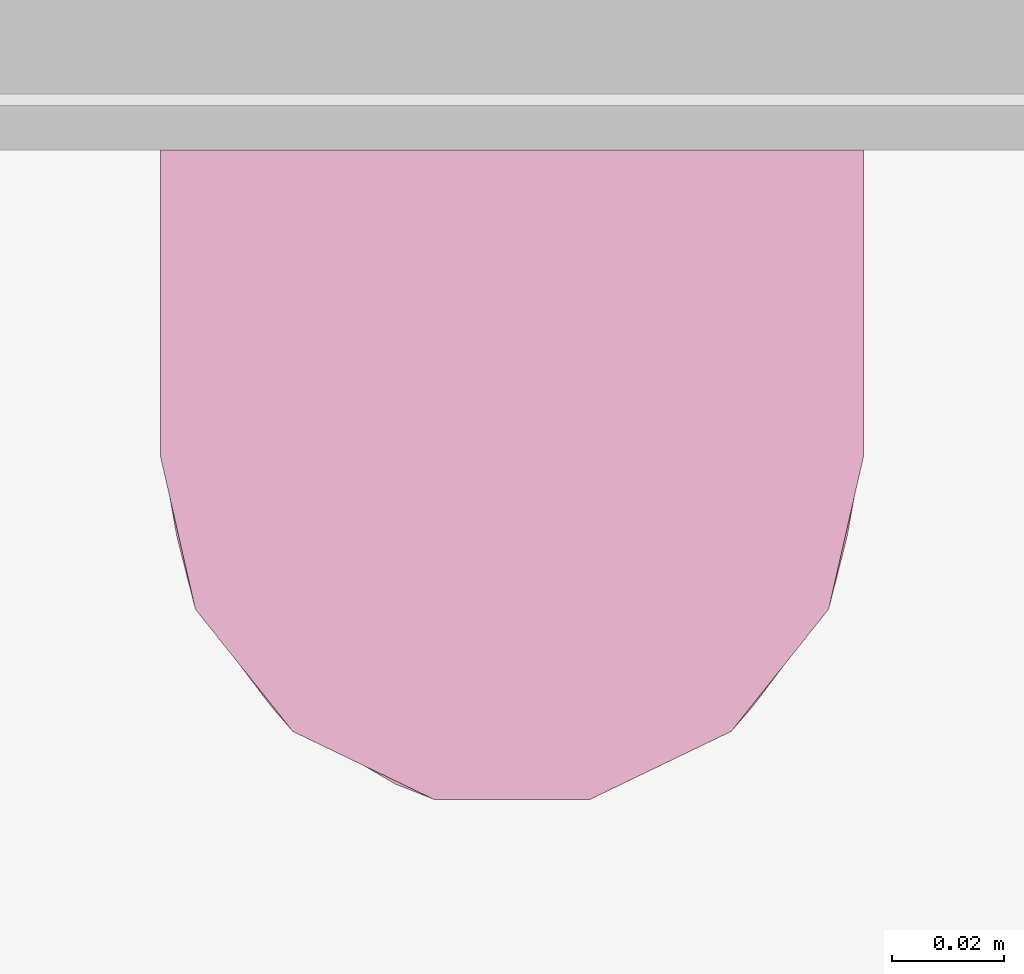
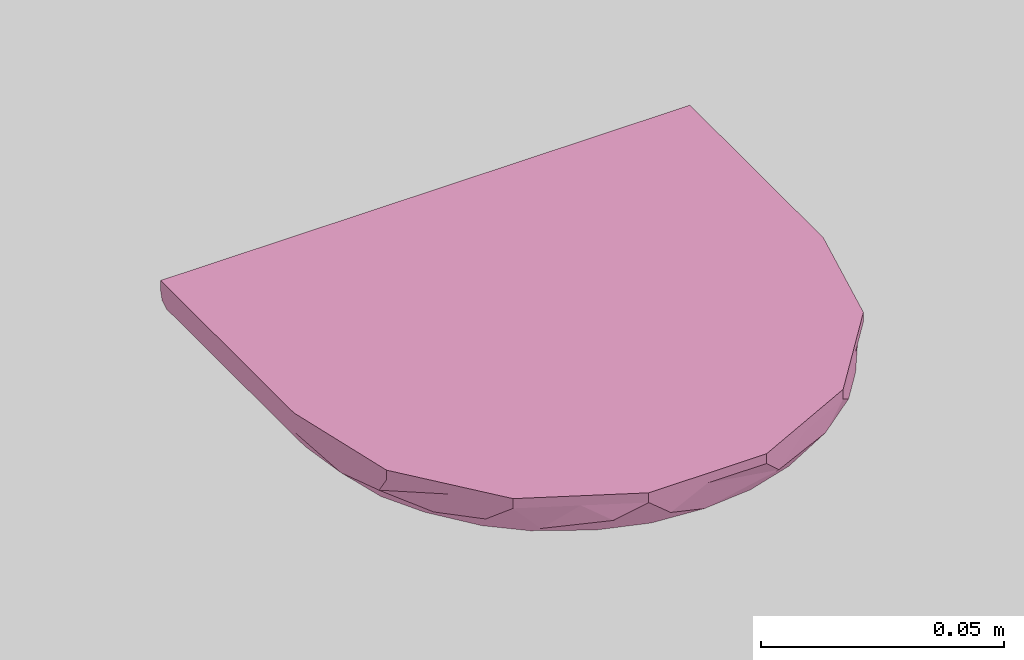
# One storey, part 46 of 48: 1 furniture element.
"""IFC4 building model written with IfcOpenShell, lengths in metres."""

from ifc_helpers import new_model, entity, si_unit, converted_unit, derived_unit, direction, frame, origin, place, context, subcontext, project, spatial, polygons, source, transform, mapped, material, type_object, type_shapes, element, save


model = new_model("IFC4")

# Units and contexts
model_context = context("Model", 3, precision=1e-05, world=origin(), true_north=direction((6.123031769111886e-17, 1.0)))
body_context = subcontext(model_context, "Body", "Model", "MODEL_VIEW")
ifc_project = project(units=[si_unit("LENGTHUNIT", "METRE"), si_unit("AREAUNIT", "SQUARE_METRE"), si_unit("VOLUMEUNIT", "CUBIC_METRE"), converted_unit("PLANEANGLEUNIT", "DEGREE", entity("IfcRatioMeasure", 0.017453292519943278), si_unit("PLANEANGLEUNIT", "RADIAN"), dimensions=[0, 0, 0, 0, 0, 0, 0]), si_unit("MASSUNIT", "GRAM", prefix="KILO"), derived_unit("MASSDENSITYUNIT", [(si_unit("MASSUNIT", "GRAM", prefix="KILO"), 1), (si_unit("LENGTHUNIT", "METRE"), -3)]), derived_unit("IONCONCENTRATIONUNIT", [(si_unit("MASSUNIT", "GRAM", prefix="KILO"), 1), (si_unit("LENGTHUNIT", "METRE"), -3)]), derived_unit("MOMENTOFINERTIAUNIT", [(si_unit("LENGTHUNIT", "METRE"), 4)]), si_unit("TIMEUNIT", "SECOND"), si_unit("FREQUENCYUNIT", "HERTZ"), si_unit("THERMODYNAMICTEMPERATUREUNIT", "DEGREE_CELSIUS"), derived_unit("THERMALTRANSMITTANCEUNIT", [(si_unit("MASSUNIT", "GRAM", prefix="KILO"), 1), (si_unit("THERMODYNAMICTEMPERATUREUNIT", "KELVIN"), -1), (si_unit("TIMEUNIT", "SECOND"), -3)]), derived_unit("THERMALCONDUCTANCEUNIT", [(si_unit("MASSUNIT", "GRAM", prefix="KILO"), 1), (si_unit("THERMODYNAMICTEMPERATUREUNIT", "KELVIN"), -1), (si_unit("TIMEUNIT", "SECOND"), -3), (si_unit("LENGTHUNIT", "METRE"), 1)]), derived_unit("VOLUMETRICFLOWRATEUNIT", [(si_unit("LENGTHUNIT", "METRE"), 3), (si_unit("TIMEUNIT", "SECOND"), -1)]), derived_unit("MASSFLOWRATEUNIT", [(si_unit("MASSUNIT", "GRAM", prefix="KILO"), 1), (si_unit("TIMEUNIT", "SECOND"), -1)]), derived_unit("ROTATIONALFREQUENCYUNIT", [(si_unit("TIMEUNIT", "SECOND"), -1)]), si_unit("ELECTRICCURRENTUNIT", "AMPERE"), si_unit("ELECTRICVOLTAGEUNIT", "VOLT"), si_unit("POWERUNIT", "WATT"), si_unit("FORCEUNIT", "NEWTON", prefix="KILO"), si_unit("ILLUMINANCEUNIT", "LUX"), si_unit("LUMINOUSFLUXUNIT", "LUMEN"), si_unit("LUMINOUSINTENSITYUNIT", "CANDELA"), derived_unit("USERDEFINED", [(si_unit("MASSUNIT", "GRAM", prefix="KILO"), -1), (si_unit("LENGTHUNIT", "METRE"), -2), (si_unit("TIMEUNIT", "SECOND"), 3), (si_unit("LUMINOUSFLUXUNIT", "LUMEN"), 1)]), derived_unit("USERDEFINED", [(si_unit("MASSUNIT", "GRAM", prefix="KILO"), 1), (si_unit("TIMEUNIT", "SECOND"), -3), (si_unit("LENGTHUNIT", "METRE"), 3), (si_unit("ELECTRICCURRENTUNIT", "AMPERE"), -2)]), derived_unit("SOUNDPOWERUNIT", [(si_unit("MASSUNIT", "GRAM", prefix="KILO"), 1), (si_unit("TIMEUNIT", "SECOND"), -3), (si_unit("LENGTHUNIT", "METRE"), 2)]), derived_unit("SOUNDPRESSUREUNIT", [(si_unit("MASSUNIT", "GRAM", prefix="KILO"), 1), (si_unit("LENGTHUNIT", "METRE"), -1), (si_unit("TIMEUNIT", "SECOND"), -2)]), derived_unit("LINEARVELOCITYUNIT", [(si_unit("LENGTHUNIT", "METRE"), 1), (si_unit("TIMEUNIT", "SECOND"), -1)]), si_unit("PRESSUREUNIT", "PASCAL"), derived_unit("USERDEFINED", [(si_unit("MASSUNIT", "GRAM", prefix="KILO"), 1), (si_unit("LENGTHUNIT", "METRE"), -2), (si_unit("TIMEUNIT", "SECOND"), -2)]), derived_unit("LINEARFORCEUNIT", [(si_unit("MASSUNIT", "GRAM", prefix="KILO"), 1), (si_unit("TIMEUNIT", "SECOND"), -2)]), derived_unit("PLANARFORCEUNIT", [(si_unit("MASSUNIT", "GRAM", prefix="KILO"), 1), (si_unit("LENGTHUNIT", "METRE"), -1), (si_unit("TIMEUNIT", "SECOND"), -2)]), derived_unit("SPECIFICHEATCAPACITYUNIT", [(si_unit("THERMODYNAMICTEMPERATUREUNIT", "KELVIN"), -1), (si_unit("LENGTHUNIT", "METRE"), 2), (si_unit("TIMEUNIT", "SECOND"), -2)]), derived_unit("HEATINGVALUEUNIT", [(si_unit("LENGTHUNIT", "METRE"), 2), (si_unit("TIMEUNIT", "SECOND"), -2)]), derived_unit("VAPORPERMEABILITYUNIT", [(si_unit("LENGTHUNIT", "METRE"), -1), (si_unit("TIMEUNIT", "SECOND"), 1)]), derived_unit("DYNAMICVISCOSITYUNIT", [(si_unit("MASSUNIT", "GRAM", prefix="KILO"), 1), (si_unit("TIMEUNIT", "SECOND"), -1), (si_unit("LENGTHUNIT", "METRE"), -1)]), derived_unit("THERMALEXPANSIONCOEFFICIENTUNIT", [(si_unit("THERMODYNAMICTEMPERATUREUNIT", "KELVIN"), -1)]), derived_unit("MODULUSOFELASTICITYUNIT", [(si_unit("MASSUNIT", "GRAM", prefix="KILO"), 1), (si_unit("LENGTHUNIT", "METRE"), -1), (si_unit("TIMEUNIT", "SECOND"), -2)]), derived_unit("ISOTHERMALMOISTURECAPACITYUNIT", [(si_unit("LENGTHUNIT", "METRE"), 3), (si_unit("MASSUNIT", "GRAM", prefix="KILO"), -1)]), derived_unit("MOISTUREDIFFUSIVITYUNIT", [(si_unit("TIMEUNIT", "SECOND"), -1), (si_unit("LENGTHUNIT", "METRE"), 2)])], contexts=[model_context])

# Site, building, storey, space
site_placement = place(None, origin())
site = spatial("IfcSite", under=ifc_project, at=site_placement, Name="Default", CompositionType="ELEMENT")
building_placement = place(site_placement, origin())
building = spatial("IfcBuilding", under=site, at=building_placement, CompositionType="ELEMENT")
storey_placement = place(building_placement, frame((0.0, 0.0, 9.40000000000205)))
storey = spatial("IfcBuildingStorey", under=building, at=storey_placement, Name="Nivel 5", CompositionType="ELEMENT", Elevation=9.40000000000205)
space_placement = place(storey_placement, origin())
space = spatial("IfcSpace", under=storey, at=space_placement, Name="268", CompositionType="ELEMENT", PredefinedType="SPACE")

# Furniture
ifc_material = material(Name="CERAMICA APARATOS", Category="Materials")
furniture_type = type_object("IfcFurnitureType", Name="E2050 - Jabonera:E2050 - Jabonera - Ceramica", AssemblyPlace="NOTDEFINED", PredefinedType="NOTDEFINED", material=ifc_material)
shared_shape = source(origin(), body_context, "Body", "Tessellation", [
    polygons([(-0.05252423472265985, -0.012920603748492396, -3.98642579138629e-15), (-0.05523556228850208, -0.012563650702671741, -3.97690233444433e-15), (-0.05776211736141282, -0.011517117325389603, -3.958155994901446e-15), (-0.059931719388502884, -0.00985232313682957, -3.931464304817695e-15), (-0.06159651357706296, -0.007682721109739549, -3.898646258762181e-15), (-0.06264304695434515, -0.005156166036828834, -3.8619383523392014e-15), (-0.0630000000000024, -0.002444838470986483, -3.823842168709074e-15), (-0.0630000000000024, -8.82367512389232e-15, -3.79003495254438e-15), (0.06300000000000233, -8.823675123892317e-15, -4.003224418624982e-15), (0.06300000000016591, -0.002444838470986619, -4.037031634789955e-15), (0.06264304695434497, -0.0051561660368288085, -4.073919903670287e-15), (0.06159651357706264, -0.007682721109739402, -4.107086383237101e-15), (0.059931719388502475, -0.009852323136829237, -4.134270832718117e-15), (0.05776211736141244, -0.011517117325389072, -4.153620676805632e-15), (0.055235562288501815, -0.012563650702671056, -4.163817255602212e-15), (0.05252423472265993, -0.012920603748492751, -4.164165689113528e-15), (0.04300000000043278, -0.01292060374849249, -4.1480508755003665e-15), (0.042779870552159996, -0.01459265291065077, -4.170799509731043e-15), (0.04213448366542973, -0.01615075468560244, -4.191252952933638e-15), (0.041107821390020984, -0.01748872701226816, -4.20801733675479e-15), (0.03976984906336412, -0.018515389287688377, -4.219950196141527e-15), (0.03821174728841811, -0.019160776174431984, -4.226238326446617e-15), (0.03653969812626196, -0.019380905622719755, -4.226453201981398e-15), (-0.03653969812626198, -0.019380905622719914, -4.1028043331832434e-15), (-0.03821174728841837, -0.019160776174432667, -4.096931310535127e-15), (-0.03976984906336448, -0.018515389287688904, -4.08537062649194e-15), (-0.04110782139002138, -0.017488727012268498, -4.068910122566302e-15), (-0.042134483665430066, -0.01615075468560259, -4.0486715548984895e-15), (-0.04277987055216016, -0.014592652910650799, -4.026034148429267e-15), (-0.04300000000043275, -0.012920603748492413, -4.002540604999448e-15), (-0.05252423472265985, -0.012920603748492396, 0.05500000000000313), (-0.05523556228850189, -0.012563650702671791, 0.05500000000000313), (-0.05776211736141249, -0.011517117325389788, 0.05500000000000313), (-0.0599317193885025, -0.009852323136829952, 0.05500000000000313), (-0.06159651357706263, -0.007682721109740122, 0.05500000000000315), (-0.06264304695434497, -0.005156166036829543, 0.05500000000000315), (-0.06300000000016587, -0.0024448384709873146, 0.055000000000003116), (-0.0630000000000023, -9.584537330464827e-15, 0.05500000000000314), (-0.05676103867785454, -9.98278301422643e-15, 0.08233467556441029), (-0.03927985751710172, -1.0341963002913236e-14, 0.10425538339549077), (-0.014018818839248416, -1.0591040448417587e-14, 0.11642045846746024), (0.014018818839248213, -1.0680682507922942e-14, 0.11642045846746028), (0.03927985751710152, -1.0593134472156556e-14, 0.1042553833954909), (0.05676103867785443, -1.0345736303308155e-14, 0.08233467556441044), (0.06300000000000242, -9.987488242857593e-15, 0.055000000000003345), (-0.036539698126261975, -0.019380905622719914, 0.055000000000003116), (-0.03821174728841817, -0.019160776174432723, 0.055000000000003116), (-0.03976984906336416, -0.018515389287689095, 0.055000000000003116), (-0.04110782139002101, -0.017488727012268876, 0.055000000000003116), (-0.04213448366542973, -0.016150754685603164, 0.055000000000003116), (-0.042779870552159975, -0.014592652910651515, 0.055000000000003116), (-0.04300000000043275, -0.012920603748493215, 0.05500000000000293), (-0.03723909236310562, -0.012920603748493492, 0.07650000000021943), (-0.021500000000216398, -0.012920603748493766, 0.09223909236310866), (-7.613909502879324e-17, -0.012920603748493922, 0.09800000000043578), (0.021500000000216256, -0.012920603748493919, 0.09223909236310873), (0.03723909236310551, -0.012920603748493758, 0.07650000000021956), (0.04300000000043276, -0.012920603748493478, 0.05500000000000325), (0.05252423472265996, -0.012920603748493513, 0.05500000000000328), (0.04732270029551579, -0.012920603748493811, 0.0777894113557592), (0.03274832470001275, -0.012920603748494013, 0.09606510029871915), (0.011687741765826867, -0.012920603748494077, 0.106207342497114), (-0.011687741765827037, -0.012920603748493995, 0.10620734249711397), (-0.0327483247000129, -0.012920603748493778, 0.09606510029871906), (-0.0473227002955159, -0.012920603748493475, 0.07778941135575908), (0.05523556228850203, -0.012563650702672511, 0.05500000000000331), (0.05776211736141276, -0.011517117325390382, 0.05500000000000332), (0.059931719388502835, -0.009852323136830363, 0.055000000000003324), (0.06159651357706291, -0.007682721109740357, 0.05500000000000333), (0.06264304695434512, -0.005156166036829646, 0.055000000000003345), (0.06300000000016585, -0.002444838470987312, 0.055000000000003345), (0.05676103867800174, -0.002444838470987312, 0.08233467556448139), (0.039279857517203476, -0.002444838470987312, 0.10425538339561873), (0.014018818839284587, -0.002444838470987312, 0.11642045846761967), (-0.01401881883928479, -0.002444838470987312, 0.11642045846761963), (-0.03927985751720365, -0.002444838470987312, 0.10425538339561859), (-0.056761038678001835, -0.002444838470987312, 0.08233467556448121), (-0.05541537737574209, -0.00994065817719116, 0.0775884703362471), (0.05541537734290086, -0.009940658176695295, 0.07758847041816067), (-0.06068843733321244, -0.002444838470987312, 0.06512761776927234), (0.06068843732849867, -0.002444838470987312, 0.06512761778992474), (-0.06009482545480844, -0.0073735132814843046, 0.06927989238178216), (0.06009482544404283, -0.007373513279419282, 0.06927989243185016), (1.1920939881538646e-10, -0.009647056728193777, 0.11513144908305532), (-0.02296028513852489, -0.010016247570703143, 0.11017763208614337), (0.022960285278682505, -0.010016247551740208, 0.11017763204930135), (-0.0423486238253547, -0.010229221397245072, 0.09684448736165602), (0.04234862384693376, -0.010229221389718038, 0.09684448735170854), (-0.049923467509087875, -0.012920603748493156, 0.06639470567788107), (0.04992346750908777, -0.012920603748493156, 0.06639470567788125), (-0.05703578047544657, -0.0065083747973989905, 0.07976375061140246), (-0.048020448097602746, -0.002444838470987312, 0.0932950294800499), (-0.05024267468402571, -0.007894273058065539, 0.09041697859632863), (-0.04930529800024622, -0.01152280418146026, 0.08507175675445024), (-0.04320181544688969, -0.006488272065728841, 0.09973226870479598), (-0.026649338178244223, -0.002444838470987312, 0.11033792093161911), (-0.033651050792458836, -0.008354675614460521, 0.10608663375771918), (-0.033585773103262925, -0.011709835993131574, 0.10156463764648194), (-0.04003551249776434, -0.012920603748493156, 0.08692725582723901), (-0.020861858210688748, -0.0061859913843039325, 0.11371301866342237), (-0.008798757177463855, -0.006760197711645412, 0.11644307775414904), (-1.0151879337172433e-16, -0.002444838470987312, 0.11642045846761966), (-0.011582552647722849, -0.010395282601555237, 0.1132044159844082), (-8.671396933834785e-17, -0.012920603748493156, 0.10620734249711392), (0.005858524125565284, -0.012067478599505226, 0.1113613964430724), (0.011714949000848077, -0.009815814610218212, 0.11381264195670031), (0.01809843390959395, -0.006648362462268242, 0.11442472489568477), (0.02664933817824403, -0.002444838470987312, 0.11033792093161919), (0.033532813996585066, -0.007293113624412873, 0.10692394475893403), (0.03311804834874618, -0.010897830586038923, 0.10347984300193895), (0.05703578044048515, -0.006508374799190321, 0.07976375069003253), (0.0480204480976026, -0.002444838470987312, 0.09329502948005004), (0.050242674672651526, -0.007894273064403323, 0.09041697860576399), (0.04930529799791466, -0.01152280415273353, 0.08507175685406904), (0.043201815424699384, -0.006488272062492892, 0.09973226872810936), (-0.022218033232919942, -0.012920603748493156, 0.10113622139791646), (0.02221803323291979, -0.012920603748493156, 0.10113622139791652), (0.04003551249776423, -0.012920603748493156, 0.08692725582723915), (-0.05917785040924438, -0.002444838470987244, 0.07174593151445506), (-0.059880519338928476, -9.58464048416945e-15, 0.06866733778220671), (-0.04802044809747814, -9.584640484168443e-15, 0.09329502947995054), (-0.02664933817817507, -9.584640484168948e-15, 0.11033792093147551), (-1.0151879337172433e-16, -9.584640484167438e-15, 0.11642045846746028), (0.026649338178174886, -9.584640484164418e-15, 0.1103379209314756), (0.048020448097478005, -9.584640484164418e-15, 0.09329502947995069), (0.05917785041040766, -9.584640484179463e-15, 0.07174593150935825), (0.05988051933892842, -0.002444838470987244, 0.06866733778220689), (-0.03529463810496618, -0.019380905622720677, 0.0644571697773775), (-0.031644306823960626, -0.019380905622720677, 0.07326984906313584), (-0.025837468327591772, -0.019380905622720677, 0.08083746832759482), (-0.018269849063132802, -0.019380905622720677, 0.08664430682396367), (-0.009457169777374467, -0.019380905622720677, 0.09029463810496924), (-6.388409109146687e-17, -0.019380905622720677, 0.09153969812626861), (0.00945716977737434, -0.019380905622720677, 0.09029463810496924), (0.018269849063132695, -0.019380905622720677, 0.08664430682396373), (0.025837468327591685, -0.019380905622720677, 0.08083746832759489), (0.03164430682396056, -0.019380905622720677, 0.07326984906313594), (0.035294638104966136, -0.019380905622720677, 0.06445716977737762), (0.03653969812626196, -0.019380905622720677, 0.05500000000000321), (0.03821174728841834, -0.01916077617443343, 0.05500000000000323), (0.03976984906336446, -0.01851538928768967, 0.055000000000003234), (0.041107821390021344, -0.01748872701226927, 0.05500000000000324), (0.04213448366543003, -0.01615075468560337, 0.05500000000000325), (0.04277987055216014, -0.014592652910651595, 0.05500000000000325), (-0.039354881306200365, -0.01681536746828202, 0.06876876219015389), (0.039354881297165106, -0.016815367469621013, 0.0687687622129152), (-0.03969397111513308, -0.012920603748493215, 0.06733826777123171), (0.039693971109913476, -0.012920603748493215, 0.06733826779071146), (-0.029990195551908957, -0.017045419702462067, 0.0837021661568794), (0.02999019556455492, -0.017045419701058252, 0.08370216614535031), (-0.014068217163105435, -0.017293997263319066, 0.09382432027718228), (0.0140682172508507, -0.01729399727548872, 0.0938243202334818), (-0.0414288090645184, -0.016256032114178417, 0.06233060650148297), (0.04142880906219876, -0.016256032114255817, 0.06233060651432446), (-0.03509474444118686, -0.018469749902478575, 0.07387308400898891), (0.03509474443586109, -0.018469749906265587, 0.07387308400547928), (-0.022452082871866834, -0.018468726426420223, 0.08792225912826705), (-0.004758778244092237, -0.018468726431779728, 0.09456419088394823), (0.022452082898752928, -0.018468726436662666, 0.08792225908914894), (-0.010750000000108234, -0.012920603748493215, 0.09511954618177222), (-0.01649269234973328, -0.014958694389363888, 0.09435387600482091), (-0.02403627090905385, -0.015817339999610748, 0.08982450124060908), (-0.029369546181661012, -0.012920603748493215, 0.08436954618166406), (-0.005391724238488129, -0.015874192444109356, 0.09694013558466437), (0.003951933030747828, -0.017201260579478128, 0.09618908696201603), (-0.029447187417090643, -0.018870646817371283, 0.08065629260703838), (0.029447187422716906, -0.018870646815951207, 0.08065629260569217), (0.004753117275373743, -0.01891047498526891, 0.09366878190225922), (0.01247662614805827, -0.01887114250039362, 0.09200843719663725), (-0.013974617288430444, -0.018938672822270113, 0.09129118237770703), (0.021812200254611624, -0.016118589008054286, 0.09107073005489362), (-0.035603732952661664, -0.016145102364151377, 0.07753804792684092), (0.03560373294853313, -0.01614510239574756, 0.07753804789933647), (-0.0379779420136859, -0.01877351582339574, 0.06500795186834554), (0.03797794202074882, -0.018773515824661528, 0.06500795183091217), (0.029369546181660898, -0.012920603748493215, 0.08436954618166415), (0.010750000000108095, -0.012920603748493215, 0.09511954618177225)], [[[8, 9, 10, 11, 12, 13, 14, 15, 16, 17, 18, 19, 20, 21, 22, 23, 24, 25, 26, 27, 28, 29, 30, 1, 2, 3, 4, 5, 6, 7]], [[1, 31, 32, 2]], [[24, 46, 47, 25]], [[2, 32, 33, 3]], [[25, 47, 48, 26]], [[3, 33, 34, 4]], [[26, 48, 49, 27]], [[5, 35, 36, 6]], [[50, 51, 29, 28]], [[6, 36, 37, 7]], [[51, 52, 30, 29]], [[4, 34, 35, 5]], [[27, 49, 50, 28]], [[8, 7, 37, 38]], [[8, 38, 120, 39, 121, 40, 122, 41, 123, 42, 124, 43, 125, 44, 126, 45, 9]], [[17, 16, 59, 90, 60, 118, 61, 117, 62, 104, 63, 116, 64, 99, 65, 89, 31, 1, 30, 52, 147, 53, 163, 54, 160, 55, 177, 56, 176, 57, 148, 58]], [[133, 132, 131, 130, 129, 128, 46, 24, 23, 139, 138, 137, 136, 135, 134]], [[78, 33, 32]], [[90, 66, 79]], [[94, 87, 93]], [[65, 94, 89]], [[80, 37, 36]], [[36, 82, 80]], [[94, 99, 87]], [[70, 71, 81]], [[109, 107, 86]], [[116, 98, 64]], [[82, 36, 35]], [[93, 95, 92]], [[78, 94, 93]], [[34, 33, 82]], [[91, 92, 77]], [[97, 95, 87]], [[34, 82, 35]], [[33, 78, 82]], [[91, 82, 78]], [[82, 77, 119, 80]], [[77, 82, 91]], [[113, 115, 88]], [[63, 104, 103]], [[95, 93, 87]], [[105, 86, 106]], [[93, 91, 78]], [[98, 85, 97]], [[61, 118, 110]], [[66, 67, 79]], [[110, 88, 109]], [[76, 95, 97]], [[114, 90, 79]], [[105, 106, 84]], [[83, 67, 68]], [[32, 89, 78]], [[74, 107, 108]], [[111, 113, 79]], [[90, 59, 66]], [[79, 83, 111]], [[101, 75, 100]], [[83, 79, 67]], [[83, 81, 127, 72]], [[84, 102, 101]], [[81, 83, 70]], [[69, 83, 68]], [[32, 31, 89]], [[101, 103, 84]], [[105, 84, 103]], [[114, 79, 113]], [[70, 83, 69]], [[92, 91, 93]], [[89, 94, 78]], [[87, 99, 98]], [[100, 75, 96]], [[92, 95, 76]], [[87, 98, 97]], [[100, 97, 85]], [[76, 97, 96]], [[65, 99, 94]], [[103, 116, 63]], [[97, 100, 96]], [[64, 98, 99]], [[103, 101, 100]], [[103, 100, 85]], [[103, 85, 116]], [[106, 107, 84]], [[102, 75, 101]], [[104, 105, 103]], [[61, 110, 117]], [[105, 104, 62]], [[86, 105, 62]], [[86, 107, 106]], [[107, 102, 84]], [[108, 107, 109]], [[102, 107, 74]], [[108, 109, 73]], [[110, 109, 86]], [[111, 72, 112]], [[110, 86, 117]], [[60, 114, 118]], [[83, 72, 111]], [[88, 114, 113]], [[115, 109, 88]], [[111, 112, 113]], [[115, 112, 73]], [[114, 88, 118]], [[90, 114, 60]], [[112, 115, 113]], [[109, 115, 73]], [[98, 116, 85]], [[86, 62, 117]], [[110, 118, 88]], [[77, 39, 120, 38, 37, 80, 119]], [[121, 39, 77, 92, 76, 40]], [[126, 44, 72, 127, 81, 71, 45]], [[96, 75, 41, 122, 40, 76]], [[123, 41, 75, 102, 74, 42]], [[73, 43, 124, 42, 74, 108]], [[43, 73, 112, 72, 44, 125]], [[46, 128, 174]], [[133, 134, 168]], [[146, 156, 175]], [[128, 155, 174]], [[130, 131, 157]], [[151, 161, 162]], [[131, 170, 157]], [[147, 52, 51]], [[155, 145, 174]], [[156, 137, 138]], [[166, 157, 149]], [[131, 132, 170]], [[147, 145, 53]], [[173, 176, 150]], [[51, 50, 153]], [[161, 54, 162]], [[153, 49, 48]], [[165, 55, 164]], [[166, 129, 130]], [[151, 162, 157]], [[173, 150, 156]], [[154, 146, 175]], [[144, 58, 148]], [[48, 174, 153]], [[167, 159, 136]], [[174, 48, 47]], [[151, 170, 158]], [[151, 158, 164]], [[152, 165, 169]], [[173, 156, 146]], [[172, 155, 149]], [[136, 159, 135]], [[136, 137, 167]], [[148, 146, 154]], [[156, 138, 175]], [[155, 172, 145]], [[144, 154, 143]], [[159, 152, 169]], [[166, 155, 129]], [[175, 139, 140]], [[154, 141, 142]], [[145, 147, 153]], [[49, 153, 50]], [[152, 159, 171]], [[154, 142, 143]], [[154, 175, 141]], [[162, 163, 149]], [[171, 56, 177]], [[146, 148, 57]], [[158, 132, 133]], [[54, 161, 160]], [[148, 154, 144]], [[160, 161, 164]], [[155, 128, 129]], [[51, 153, 147]], [[165, 168, 169]], [[167, 156, 150]], [[150, 176, 171]], [[164, 161, 151]], [[53, 172, 163]], [[157, 162, 149]], [[162, 54, 163]], [[165, 164, 158]], [[160, 164, 55]], [[158, 133, 168]], [[152, 177, 165]], [[157, 166, 130]], [[155, 166, 149]], [[156, 167, 137]], [[159, 167, 150]], [[168, 134, 169]], [[158, 168, 165]], [[134, 135, 169]], [[159, 169, 135]], [[158, 170, 132]], [[157, 170, 151]], [[150, 171, 159]], [[55, 165, 177]], [[163, 172, 149]], [[53, 145, 172]], [[146, 57, 173]], [[171, 177, 152]], [[174, 145, 153]], [[46, 174, 47]], [[139, 175, 138]], [[141, 175, 140]], [[176, 173, 57]], [[56, 171, 176]], [[59, 16, 15, 66]], [[139, 23, 22, 140]], [[66, 15, 14, 67]], [[140, 22, 21, 141]], [[67, 14, 13, 68]], [[141, 21, 20, 142]], [[69, 12, 11, 70]], [[19, 18, 144, 143]], [[70, 11, 10, 71]], [[18, 17, 58, 144]], [[68, 13, 12, 69]], [[142, 20, 19, 143]], [[45, 71, 10, 9]]], closed=True),
])
type_shapes(furniture_type, [shared_shape])
furniture_placement = place(space_placement, frame((3.197501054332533, -6.495000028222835, 1.2499999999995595), z_axis=(0.0, -1.0, 0.0), x_axis=(1.0, 0.0, 0.0)))
element("IfcFurniture", 1, at=furniture_placement, inside=space, type_object=furniture_type, material=ifc_material, Name="E2050 - Jabonera:E2050 - Jabonera - Ceramica", ObjectType="E2050 - Jabonera:E2050 - Jabonera - Ceramica", PredefinedType="NOTDEFINED", context=body_context, shape_type="MappedRepresentation", body=[
    mapped(shared_shape, transform((0.0, 0.0, 0.0), scale=1.0)),
])

save(model, "model.ifc")
